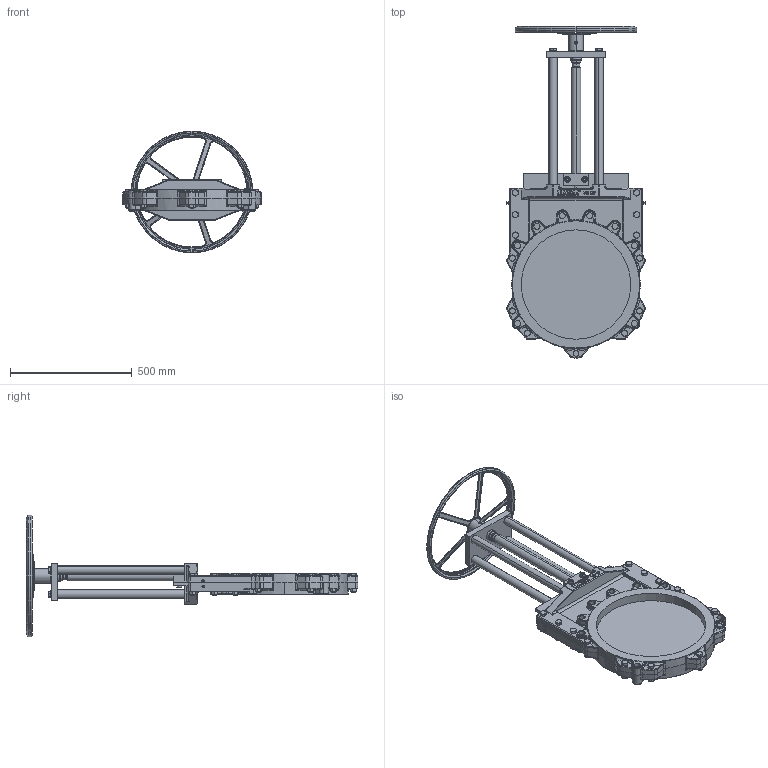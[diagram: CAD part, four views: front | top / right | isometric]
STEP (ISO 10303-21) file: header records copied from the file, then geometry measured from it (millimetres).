
FILE_DESCRIPTION (( 'STEP AP214' ), '1' );
FILE_NAME ('VSA DN 0450.STEP', '2015-09-23T10:58:41', ( 'admin' ), ( 'Hewlett-Packard Company' ), 'SwSTEP 2.0', 'SolidWorks 2013', '' );
FILE_SCHEMA (( 'AUTOMOTIVE_DESIGN' ));
Length unit declared in the file: millimetre
Products named in the file (1): VSA DN 0450
Bounding box: 569.52 x 1364.97 x 500 mm (x, y, z)
Volume: 20844398.9 mm3; surface area: 2035097.1 mm2
Topology: 49 solids, 59 shells, 2823 faces, 6573 edges, 3810 vertices
Faces by surface type: plane 843, cylinder 612, cone 577, bspline 547, torus 242, sphere 2
Entity records: 139338 total; most frequent: CARTESIAN_POINT 48537, ORIENTED_EDGE 12862, DIRECTION 11597, EDGE_CURVE 6431, AXIS2_PLACEMENT_3D 4755, VERTEX_POINT 3810, EDGE_LOOP 3017, UNCERTAINTY_MEASURE_WITH_UNIT 2870
